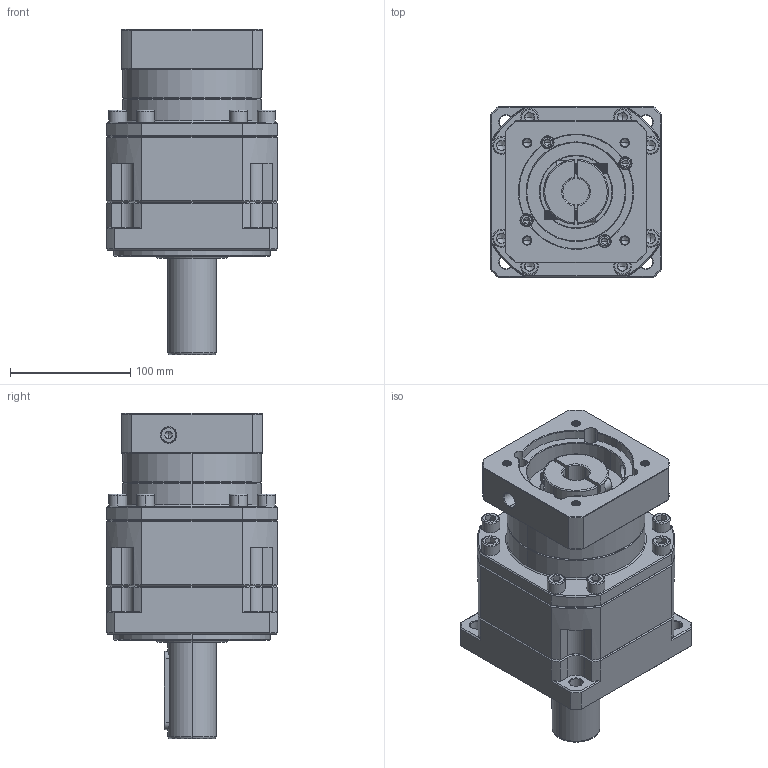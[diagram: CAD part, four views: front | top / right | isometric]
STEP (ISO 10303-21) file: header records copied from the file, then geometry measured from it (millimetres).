
FILE_DESCRIPTION (( 'STEP AP214' ), '1' );
FILE_NAME ('ZB142A-D40-L2-P2-22-95-115-M8.step', '2023-09-02T02:50:11', ( '' ), ( '' ), 'SwSTEP 2.0', 'SolidWorks 2016', '' );
FILE_SCHEMA (( 'AUTOMOTIVE_DESIGN' ));
Length unit declared in the file: millimetre
Products named in the file (1): ZB142A-D40-L2-P2-22-95-115-M8
Bounding box: 142 x 142 x 270.7 mm (x, y, z)
Volume: 2858899.1 mm3; surface area: 232442.6 mm2
Topology: 6 solids, 6 shells, 2558 faces, 6701 edges, 4265 vertices
Faces by surface type: plane 1205, cylinder 497, bspline 425, cone 393, torus 38
Entity records: 136160 total; most frequent: CARTESIAN_POINT 48488, ORIENTED_EDGE 13294, DIRECTION 10848, EDGE_CURVE 6647, VERTEX_POINT 4265, LINE 4214, VECTOR 4214, AXIS2_PLACEMENT_3D 3317
